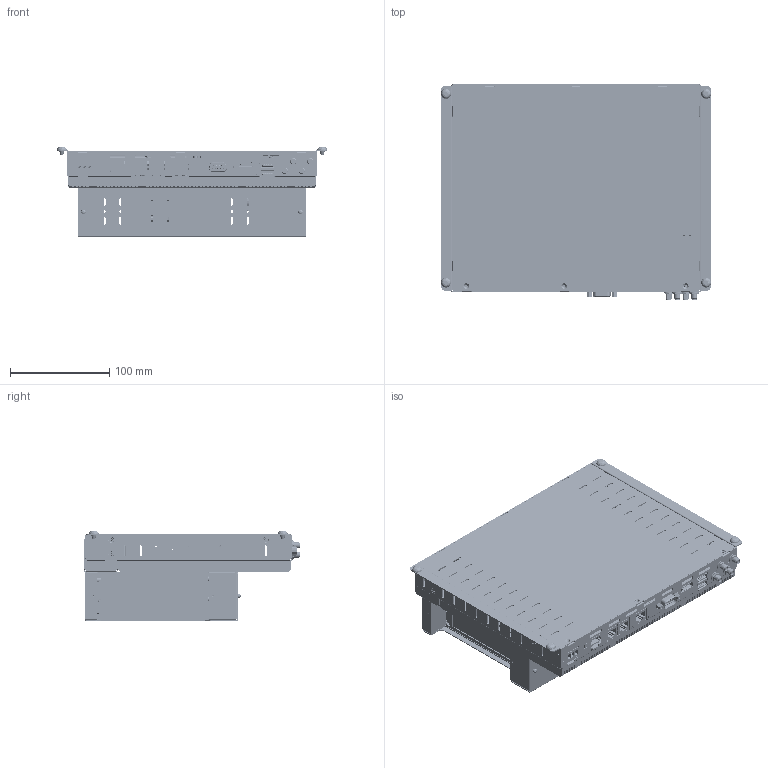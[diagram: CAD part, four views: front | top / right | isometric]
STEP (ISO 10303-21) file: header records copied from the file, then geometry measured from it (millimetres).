
FILE_DESCRIPTION((''),'2;1');
FILE_NAME('EC6A-100-Z','2026-06-02T13:18:13',('gijyu181'),(''),'CREO PARAMETRIC BY PTC INC, 2018050','CREO PARAMETRIC BY PTC INC, 2018050','');
FILE_SCHEMA(('CONFIG_CONTROL_DESIGN','SHAPE_APPEARANCE_LAYERS_GROUPS'));
Products named in the file (1): EC6A-100-Z
Bounding box: 272 x 217.54 x 90.55 mm (x, y, z)
Volume: 842790.5 mm3; surface area: 863932.1 mm2
Topology: 7 solids, 84 shells, 39270 faces, 115201 edges, 76244 vertices
Faces by surface type: plane 27133, cylinder 9765, extrusion 1455, cone 348, torus 299, bspline 198, sphere 72
Entity records: 1502201 total; most frequent: CARTESIAN_POINT 262617, ORIENTED_EDGE 229331, DIRECTION 208052, EDGE_CURVE 115135, VECTOR 91502, LINE 90047, VERTEX_POINT 76245, AXIS2_PLACEMENT_3D 58275
